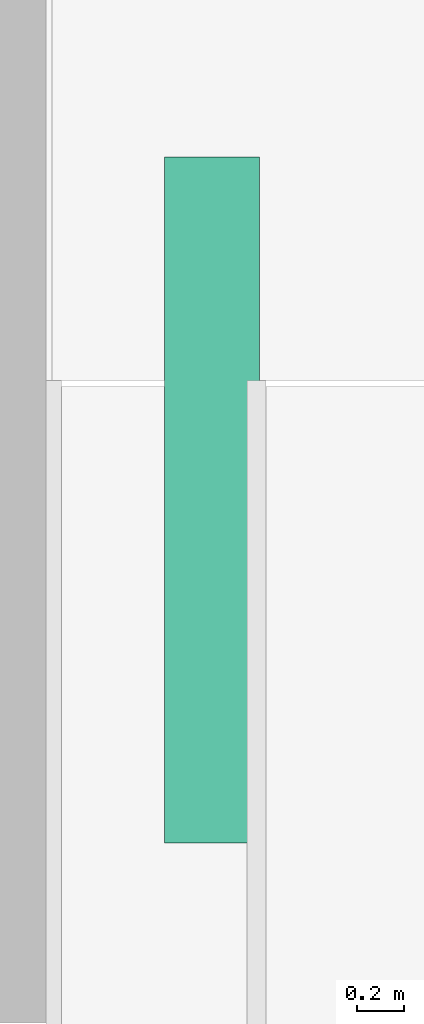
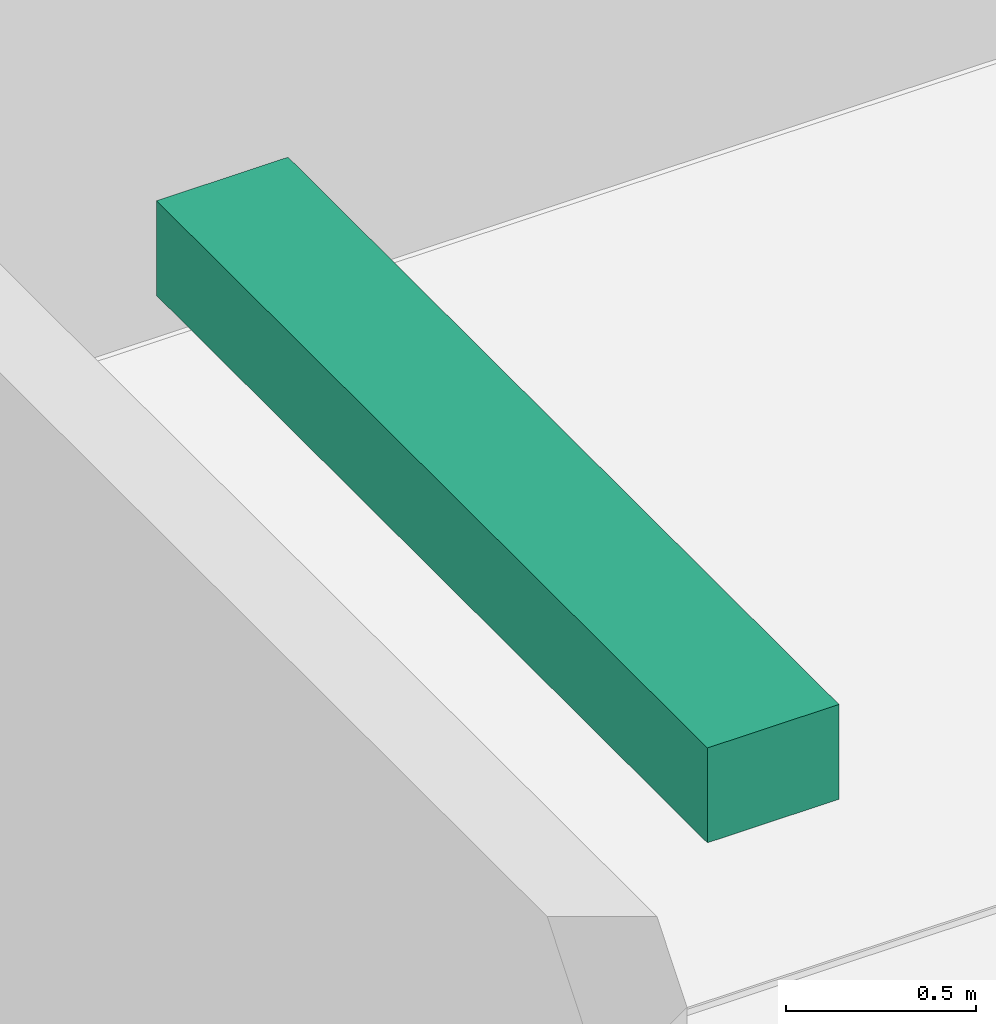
# One storey, part 8 of 8: 1 flow segment.
"""IFC2X3 building model written with IfcOpenShell, lengths in centimetres."""

from ifc_helpers import new_model, entity, si_unit, converted_unit, derived_unit, direction, frame, frame_2d, origin, place, context, subcontext, project, spatial, rectangle, extrude, type_object, element, save


model = new_model("IFC2X3")

# Units and contexts
model_context = context("Model", 3, precision=0.001, world=origin(), true_north=direction((6.12303176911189e-17, 1.0)))
body_context = subcontext(model_context, "Body", "Model", "MODEL_VIEW")
ifc_project = project(units=[si_unit("LENGTHUNIT", "METRE", prefix="CENTI"), si_unit("AREAUNIT", "SQUARE_METRE"), si_unit("VOLUMEUNIT", "CUBIC_METRE"), converted_unit("PLANEANGLEUNIT", "DEGREE", entity("IfcRatioMeasure", 0.0174532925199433), si_unit("PLANEANGLEUNIT", "RADIAN"), dimensions=[0, 0, 0, 0, 0, 0, 0]), si_unit("MASSUNIT", "GRAM", prefix="KILO"), derived_unit("MASSDENSITYUNIT", [(si_unit("MASSUNIT", "GRAM", prefix="KILO"), 1), (si_unit("LENGTHUNIT", "METRE"), -3)]), derived_unit("MOMENTOFINERTIAUNIT", [(si_unit("LENGTHUNIT", "METRE"), 4)]), si_unit("TIMEUNIT", "SECOND"), si_unit("FREQUENCYUNIT", "HERTZ"), si_unit("THERMODYNAMICTEMPERATUREUNIT", "DEGREE_CELSIUS"), derived_unit("THERMALTRANSMITTANCEUNIT", [(si_unit("MASSUNIT", "GRAM", prefix="KILO"), 1), (si_unit("THERMODYNAMICTEMPERATUREUNIT", "KELVIN"), -1), (si_unit("TIMEUNIT", "SECOND"), -3)]), derived_unit("VOLUMETRICFLOWRATEUNIT", [(si_unit("LENGTHUNIT", "METRE"), 3), (si_unit("TIMEUNIT", "SECOND"), -1)]), si_unit("ELECTRICCURRENTUNIT", "AMPERE"), si_unit("ELECTRICVOLTAGEUNIT", "VOLT"), si_unit("POWERUNIT", "WATT"), si_unit("FORCEUNIT", "NEWTON", prefix="KILO"), si_unit("ILLUMINANCEUNIT", "LUX"), si_unit("LUMINOUSFLUXUNIT", "LUMEN"), si_unit("LUMINOUSINTENSITYUNIT", "CANDELA"), derived_unit("USERDEFINED", [(si_unit("MASSUNIT", "GRAM", prefix="KILO"), -1), (si_unit("LENGTHUNIT", "METRE"), -2), (si_unit("TIMEUNIT", "SECOND"), 3), (si_unit("LUMINOUSFLUXUNIT", "LUMEN"), 1)]), derived_unit("LINEARVELOCITYUNIT", [(si_unit("LENGTHUNIT", "METRE"), 1), (si_unit("TIMEUNIT", "SECOND"), -1)]), si_unit("PRESSUREUNIT", "PASCAL"), derived_unit("USERDEFINED", [(si_unit("LENGTHUNIT", "METRE"), -2), (si_unit("MASSUNIT", "GRAM", prefix="KILO"), 1), (si_unit("TIMEUNIT", "SECOND"), -2)]), derived_unit("LINEARFORCEUNIT", [(si_unit("MASSUNIT", "GRAM", prefix="KILO"), 1), (si_unit("LENGTHUNIT", "METRE"), 1), (si_unit("TIMEUNIT", "SECOND"), -2), (si_unit("LENGTHUNIT", "METRE"), -1)]), derived_unit("PLANARFORCEUNIT", [(si_unit("MASSUNIT", "GRAM", prefix="KILO"), 1), (si_unit("LENGTHUNIT", "METRE"), 1), (si_unit("TIMEUNIT", "SECOND"), -2), (si_unit("LENGTHUNIT", "METRE"), -2)])], contexts=[model_context])

# Site, building, storey
site_placement = place(None, origin())
site = spatial("IfcSite", under=ifc_project, at=site_placement, Name="Default", CompositionType="ELEMENT")
building_placement = place(site_placement, origin())
building = spatial("IfcBuilding", under=site, at=building_placement, CompositionType="ELEMENT")
storey_placement = place(building_placement, frame((0.0, 0.0, 290.0)))
storey = spatial("IfcBuildingStorey", under=building, at=storey_placement, Name="Poziom Antresola +2,90", CompositionType="ELEMENT", Elevation=290.0)

# Flow segment
duct_segment_type = type_object("IfcDuctSegmentType", Name="Kanał prostokątny:Domyślny", PredefinedType="NOTDEFINED")
flow_segment_placement = place(storey_placement, origin())
element("IfcFlowSegment", 1, at=flow_segment_placement, inside=storey, type_object=duct_segment_type, Name="Kanał prostokątny:Domyślny", ObjectType="Kanał prostokątny:Domyślny", context=body_context, shape_type="SweptSolid", body=[
    extrude(rectangle(XDim=290.0, YDim=40.0, at=frame_2d((-1.13686837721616e-13, 4.33431068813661e-13), x_axis=(1.0, 0.0))), frame((-2179.09253552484, 1692.52745205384, 209.52), z_axis=(0.0, 0.0, 1.0), x_axis=(0.0, -1.0, 0.0)), (0.0, 0.0, 1.0), 30.48),
])

save(model, "model.ifc")
